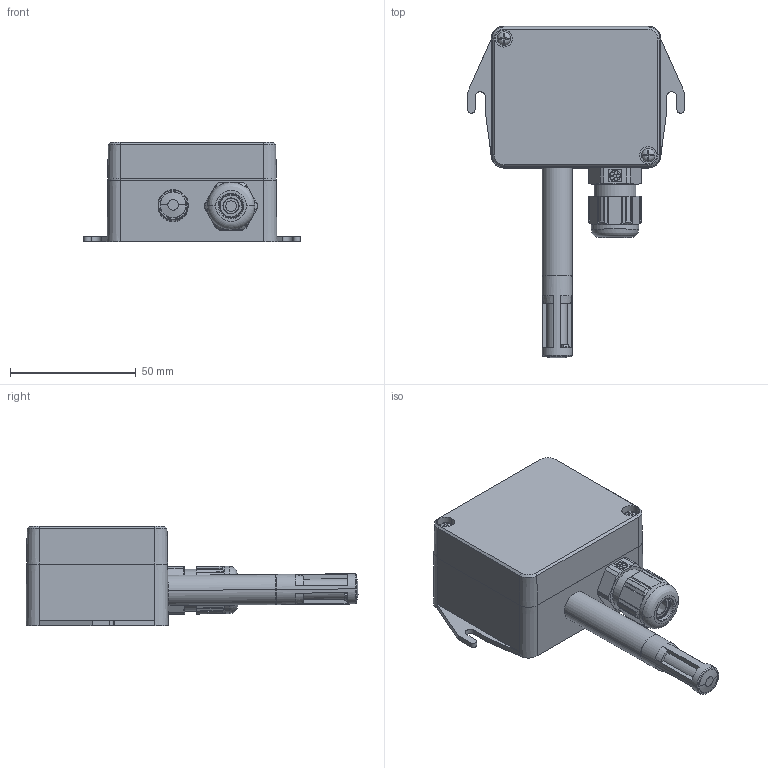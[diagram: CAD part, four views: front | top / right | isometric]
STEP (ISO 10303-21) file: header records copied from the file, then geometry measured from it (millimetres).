
FILE_DESCRIPTION (( 'STEP AP214' ), '1' );
FILE_NAME ('Base BHT Room version.STEP', '2025-02-04T14:20:36', ( '' ), ( '' ), 'SwSTEP 2.0', 'SolidWorks 2022', '' );
FILE_SCHEMA (( 'AUTOMOTIVE_DESIGN' ));
Length unit declared in the file: millimetre
Products named in the file (18): SKINTOPM16; SKINTOPM16.step; F_hlerkappe_Abdeckung_F_hlerrohr Lang.STEP.STEP; Filterkappe auf Fühlerrohr.STEP; F_hlerkappe_F_hlerrohr Lang.STEP.STEP; Gehäuse-Deckel 67x56x15 DS01; Filtermedium_F_hlerrohr Lang.STEP.STEP; PG_Skintop_ST_16x1,5.R_102717.step; Base BHT Room version; Universens.STEP.STEP; Gehäuse-Unterteil Temp+Feuchte Raum Base; Gehäuseschraube; F_hlerkappe_Grundk_rper_F_hlerrohr Lang.STEP.STEP; PG_Skintop_ST_16x1,5.R_102718.step; Filterkappe auf Fühlerrohr; Fühlerrohr 50mm base; PG_Skintop_ST_16x1,5.R_102716.step; Universens F_hler_F_hlerrohr Lang.STEP.STEP
Assembly tree (18 placements, depth 7):
  Base BHT Room version
    Gehäuse-Unterteil Temp+Feuchte Raum Base
    SKINTOPM16
      SKINTOPM16.step
        PG_Skintop_ST_16x1,5.R_102716.step
        PG_Skintop_ST_16x1,5.R_102717.step
        PG_Skintop_ST_16x1,5.R_102718.step
    Fühlerrohr 50mm base
    Filterkappe auf Fühlerrohr
      Filterkappe auf Fühlerrohr.STEP
        Universens.STEP.STEP
          Universens F_hler_F_hlerrohr Lang.STEP.STEP
            F_hlerkappe_F_hlerrohr Lang.STEP.STEP
              F_hlerkappe_Grundk_rper_F_hlerrohr Lang.STEP.STEP
              F_hlerkappe_Abdeckung_F_hlerrohr Lang.STEP.STEP
              Filtermedium_F_hlerrohr Lang.STEP.STEP
    Gehäuse-Deckel 67x56x15 DS01
    Gehäuseschraube  x2
Bounding box: 86 x 131.83 x 39.5 mm (x, y, z)
Volume: 48342.6 mm3; surface area: 50538.6 mm2
Topology: 11 solids, 11 shells, 768 faces, 2015 edges, 1302 vertices
Faces by surface type: plane 381, cylinder 176, cone 136, bspline 66, torus 9
Entity records: 29556 total; most frequent: CARTESIAN_POINT 10990, ORIENTED_EDGE 3926, DIRECTION 3567, EDGE_CURVE 1963, AXIS2_PLACEMENT_3D 1315, VERTEX_POINT 1269, LINE 937, VECTOR 937
